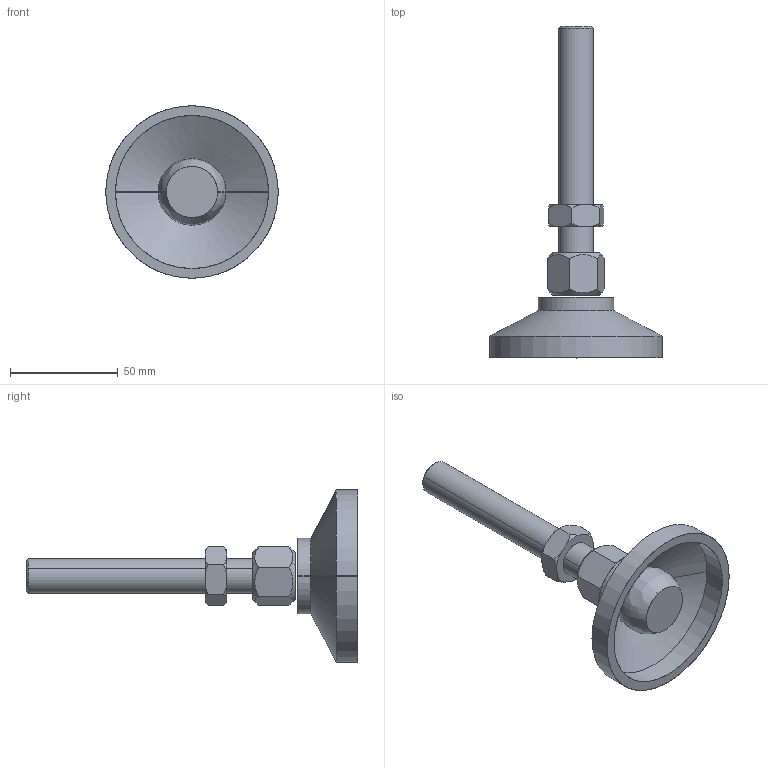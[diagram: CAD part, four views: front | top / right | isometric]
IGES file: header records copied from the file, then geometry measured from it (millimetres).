
Start section: SolidWorks IGES file using analytic representation for surfaces
Global section: file name: C:\Documents and Settings\URETIM3\Desktop\yeni katalog tolgay düzenli\A kataloðu\pabuc,saplama montajlarý\501-505 plastik pabuç ...801\çinko kaplamalý\export\501 801 615.IGS; native system: SolidWorks 2006 by SolidWorks Corporation; preprocessor: SolidWorks 2006 by SolidWorks Corporation; author: URETIM3; date: 060911.121608; units: millimetre
Bounding box: 80 x 154 x 80 mm (x, y, z)
Surface area: 30787 mm2 (no closed solid volume)
Topology: 0 solids, 0 shells, 61 faces, 964 edges, 964 vertices
Faces by surface type: revolution 38, bspline 23
